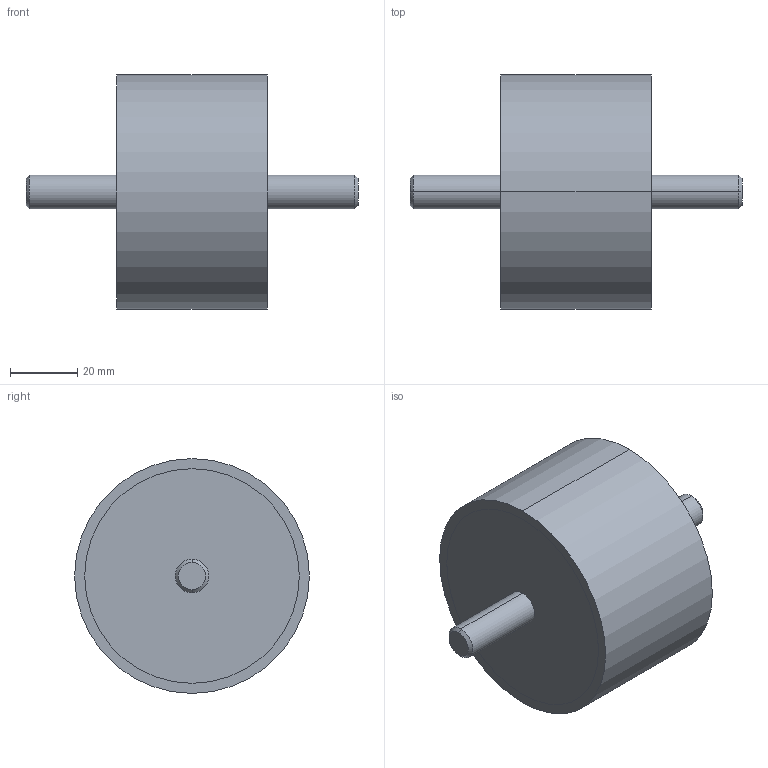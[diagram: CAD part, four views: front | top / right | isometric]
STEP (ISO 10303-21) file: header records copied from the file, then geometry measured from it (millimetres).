
FILE_DESCRIPTION (( 'STEP AP214' ), '1' );
FILE_NAME ('351-70-45-M10-SS-70.step', '2025-07-23T09:46:27', ( '' ), ( '' ), 'SwSTEP 2.0', 'SolidWorks 2022', '' );
FILE_SCHEMA (( 'AUTOMOTIVE_DESIGN' ));
Length unit declared in the file: millimetre
Products named in the file (1): 351-70-45-M10-SS-70
Bounding box: 99 x 70 x 70 mm (x, y, z)
Volume: 177332.1 mm3; surface area: 19256.7 mm2
Topology: 1 solids, 1 shells, 20 faces, 38 edges, 24 vertices
Faces by surface type: cylinder 10, plane 6, cone 4
Entity records: 636 total; most frequent: DIRECTION 104, CARTESIAN_POINT 83, ORIENTED_EDGE 76, AXIS2_PLACEMENT_3D 45, EDGE_CURVE 38, VERTEX_POINT 24, EDGE_LOOP 24, CIRCLE 24
